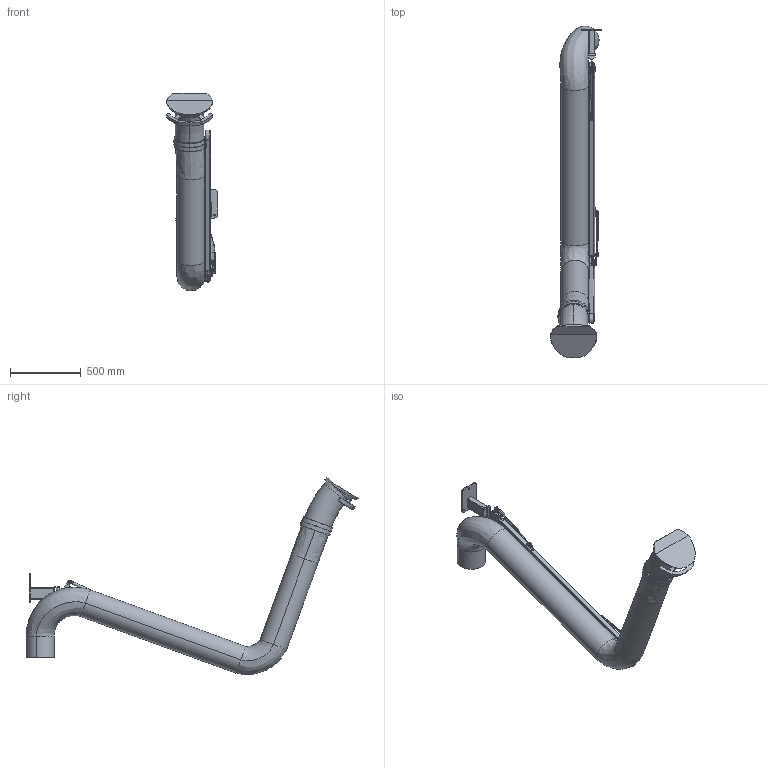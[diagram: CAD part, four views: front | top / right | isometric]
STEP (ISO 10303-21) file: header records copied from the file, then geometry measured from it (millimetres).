
FILE_DESCRIPTION((''),'2;1');
FILE_NAME('PR3000-200_135833','2017-12-20T',('Tomas Bellgran'),(''),'CREO PARAMETRIC BY PTC INC, 2016130','CREO PARAMETRIC BY PTC INC, 2016130','');
FILE_SCHEMA(('AUTOMOTIVE_DESIGN { 1 0 10303 214 1 1 1 1 }'));
Length unit declared in the file: millimetre
Products named in the file (43): 100-6300-01; 100-6300-02; 100-6300-04; 100-6300; 102683; 100-5506_L_LIGHT; 100-5506_R_LIGHT; 100-5506; 100-5404-L_LIGHT; 100-5404-R_LIGHT; 100-5404; 100-5914; 100-5913; 100-5915; 135085; 102679; 100-5512-L_LIGHT; 100-512-R_LIGHT; 100-5512; 122219; 102715; 100-5911; 100-5518; 100-6305-2; 100-6305-1; 100-6305; 134112; 100-5721_LIGHT; 100-5824B_LIGHT; 100-5862A_LIGHT; 100-5865A_LIGHT; 126057_AF1; 100-6341-200; 137253; 135584; STAB_K4-D4; 130368; 102118-REF; 135588; 130371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
Assembly tree (46 placements, depth 5):
  PR3000-200_135833
    100-6300
      100-6300-01
      100-6300-02
      100-6300-04
    134112
      135085
        102683
        100-5506
          100-5506_L_LIGHT
          100-5506_R_LIGHT
        100-5404
          100-5404-L_LIGHT
          100-5404-R_LIGHT
        100-5915  x2
          100-5914
          100-5913
      122219
        102679
        100-5512
          100-5512-L_LIGHT
          100-512-R_LIGHT
      100-5518
        102715
        100-5911
      100-6305
        100-6305-2
        100-6305-1
        100-5911
    100-5721_LIGHT
    100-6341-200
      100-5824B_LIGHT
      100-5862A_LIGHT
      100-5865A_LIGHT
      126057_AF1
    137253
    130368
      135584
      STAB_K4-D4
    102118-REF
    130371
      135588
      STAB_K4-D4
    102845-REF
      GAS_SPRING_ROD_STABILUS
      STAB_K4-D4
Bounding box: 362.02 x 2348.05 x 1398.82 mm (x, y, z)
Volume: 10741561 mm3; surface area: 5323385.9 mm2
Topology: 34 solids, 35 shells, 844 faces, 2036 edges, 1259 vertices
Faces by surface type: cylinder 273, plane 270, cone 118, bspline 78, torus 75, sphere 26, extrusion 4
Entity records: 42565 total; most frequent: CARTESIAN_POINT 11129, DIRECTION 3754, ORIENTED_EDGE 3530, EDGE_CURVE 1765, PROPERTY_DEFINITION 1698, REPRESENTATION 1670, PROPERTY_DEFINITION_REPRESENTATION 1670, AXIS2_PLACEMENT_3D 1511
